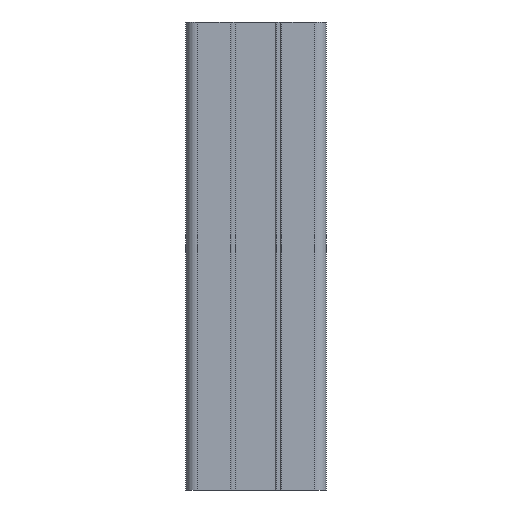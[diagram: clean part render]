
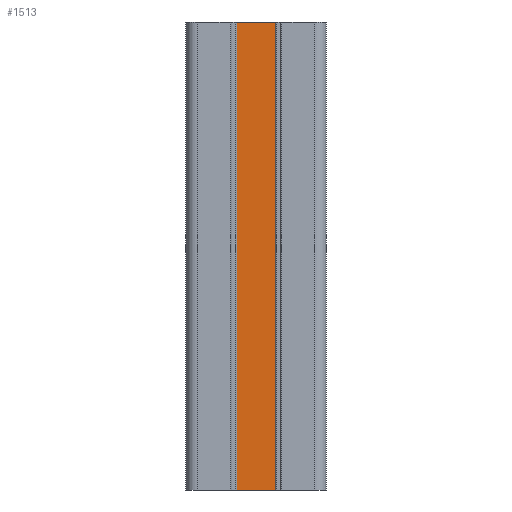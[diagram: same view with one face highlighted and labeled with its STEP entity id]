
A CAD part, front view. The second image highlights one B-rep face of the part: STEP entity #1513.
In plain terms, the highlighted planar face has unit normal (0, -1, 0).
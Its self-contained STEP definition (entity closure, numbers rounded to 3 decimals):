
#463=CARTESIAN_POINT('',(4.251,-5.798,0.0));
#464=VERTEX_POINT('',#463);
#471=CARTESIAN_POINT('',(-4.238,-5.798,0.0));
#472=VERTEX_POINT('',#471);
#473=CARTESIAN_POINT('',(4.251,-5.798,0.0));
#474=DIRECTION('',(-1.0,0.0,0.0));
#475=VECTOR('',#474,8.489);
#476=LINE('',#473,#475);
#477=EDGE_CURVE('',#464,#472,#476,.T.);
#1471=CARTESIAN_POINT('',(4.251,-5.798,100.0));
#1472=VERTEX_POINT('',#1471);
#1479=CARTESIAN_POINT('',(4.251,-5.798,0.0));
#1480=DIRECTION('',(0.0,0.0,1.0));
#1481=VECTOR('',#1480,100.0);
#1482=LINE('',#1479,#1481);
#1483=EDGE_CURVE('',#464,#1472,#1482,.T.);
#1490=CARTESIAN_POINT('',(0.006,-5.798,0.0));
#1491=DIRECTION('',(0.0,-1.0,0.0));
#1492=DIRECTION('',(0.0,0.0,-1.0));
#1493=AXIS2_PLACEMENT_3D('',#1490,#1491,#1492);
#1494=PLANE('',#1493);
#1495=CARTESIAN_POINT('',(-4.238,-5.798,100.0));
#1496=VERTEX_POINT('',#1495);
#1497=CARTESIAN_POINT('',(4.251,-5.798,100.0));
#1498=DIRECTION('',(-1.0,0.0,0.0));
#1499=VECTOR('',#1498,8.489);
#1500=LINE('',#1497,#1499);
#1501=EDGE_CURVE('',#1472,#1496,#1500,.T.);
#1502=ORIENTED_EDGE('',*,*,#1501,.T.);
#1503=CARTESIAN_POINT('',(-4.238,-5.798,0.0));
#1504=DIRECTION('',(0.0,0.0,1.0));
#1505=VECTOR('',#1504,100.0);
#1506=LINE('',#1503,#1505);
#1507=EDGE_CURVE('',#472,#1496,#1506,.T.);
#1508=ORIENTED_EDGE('',*,*,#1507,.F.);
#1509=ORIENTED_EDGE('',*,*,#477,.F.);
#1510=ORIENTED_EDGE('',*,*,#1483,.T.);
#1511=EDGE_LOOP('',(#1502,#1508,#1509,#1510));
#1512=FACE_OUTER_BOUND('',#1511,.T.);
#1513=ADVANCED_FACE('',(#1512),#1494,.T.);
